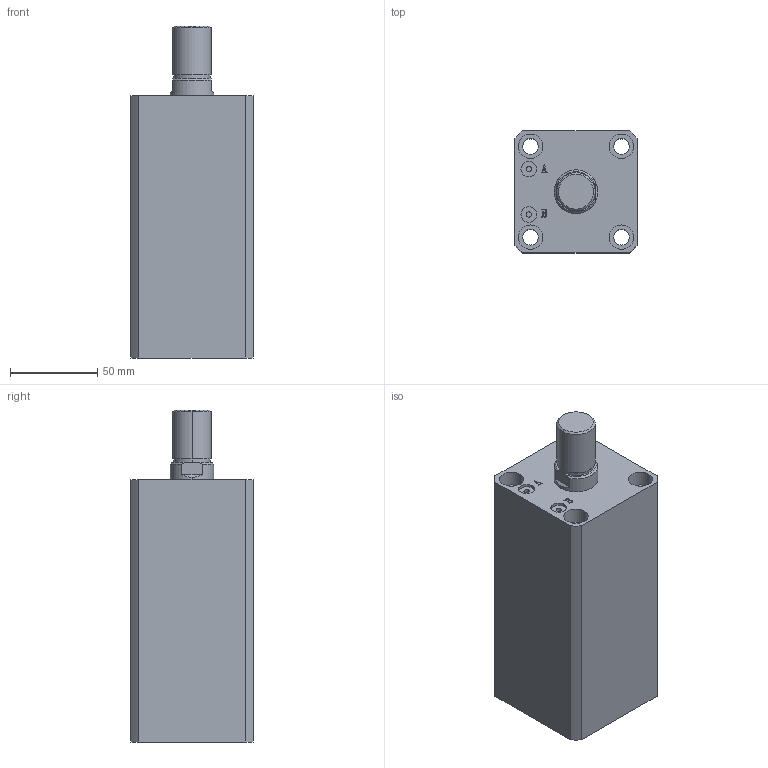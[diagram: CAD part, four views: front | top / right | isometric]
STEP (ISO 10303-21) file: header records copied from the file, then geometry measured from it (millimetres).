
FILE_DESCRIPTION (( 'STEP AP203' ), '1' );
FILE_NAME ('HTB-SDMA40-95W.STEP', '2019-10-07T11:58:56', ( '微软用户' ), ( '微软中国' ), 'SwSTEP 2.0', 'SolidWorks 2012', '' );
FILE_SCHEMA (( 'CONFIG_CONTROL_DESIGN' ));
Length unit declared in the file: millimetre
Products named in the file (3): HTB-SDMA40-95W; HTB-SDMA40-95W活塞杆; HTB-SDMA40-95掛极
Assembly tree (2 placements, depth 2):
  HTB-SDMA40-95W
    HTB-SDMA40-95掛极
    HTB-SDMA40-95W活塞杆
Bounding box: 70 x 70 x 190 mm (x, y, z)
Volume: 627598.4 mm3; surface area: 103199.6 mm2
Topology: 2 solids, 2 shells, 141 faces, 337 edges, 222 vertices
Faces by surface type: plane 67, cylinder 48, bspline 16, torus 6, cone 4
Entity records: 5180 total; most frequent: CARTESIAN_POINT 1597, ORIENTED_EDGE 674, DIRECTION 669, EDGE_CURVE 337, AXIS2_PLACEMENT_3D 242, VERTEX_POINT 222, LINE 185, VECTOR 185
